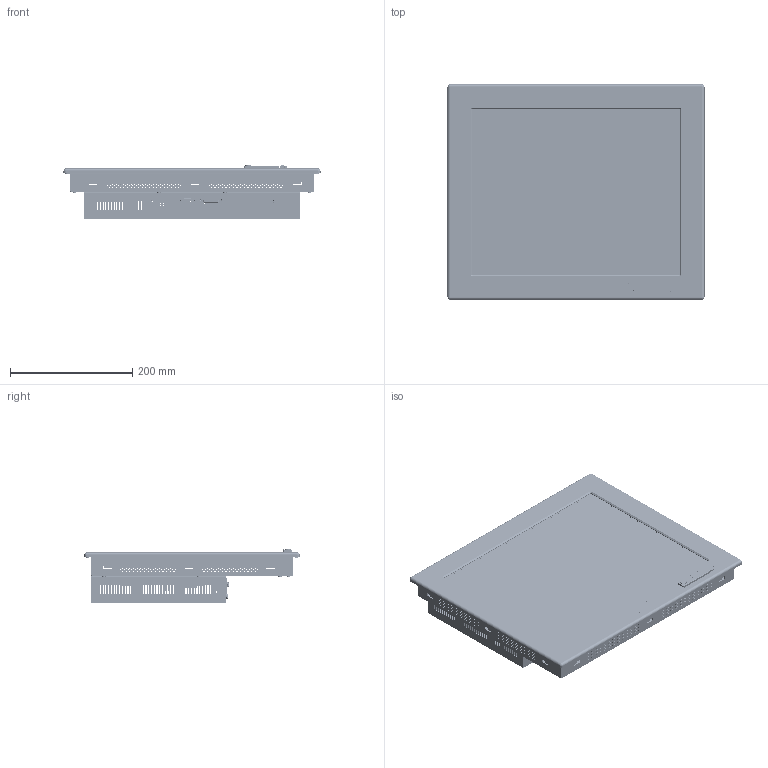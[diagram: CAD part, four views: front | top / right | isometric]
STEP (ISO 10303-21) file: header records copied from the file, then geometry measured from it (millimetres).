
FILE_DESCRIPTION (( 'STEP AP214' ), '1' );
FILE_NAME ('CPCV5-170.STEP', '2016-03-30T06:42:11', ( 'Registered User' ), ( 'Microsoft Corporation' ), 'SwSTEP 2.0', 'SolidWorks 2014', '' );
FILE_SCHEMA (( 'AUTOMOTIVE_DESIGN' ));
Length unit declared in the file: millimetre
Products named in the file (1): CPCV5-170
Bounding box: 420 x 352 x 89.4 mm (x, y, z)
Surface area: 1078891.2 mm2 (no closed solid volume)
Topology: 0 solids, 201 shells, 4739 faces, 21054 edges, 16094 vertices
Faces by surface type: cylinder 3432, plane 1158, torus 60, cone 58, bspline 26, sphere 5
Entity records: 282282 total; most frequent: CARTESIAN_POINT 44311, DIRECTION 40922, ORIENTED_EDGE 32720, EDGE_CURVE 21050, VERTEX_POINT 16094, AXIS2_PLACEMENT_3D 15709, CIRCLE 10995, EDGE_LOOP 9588
